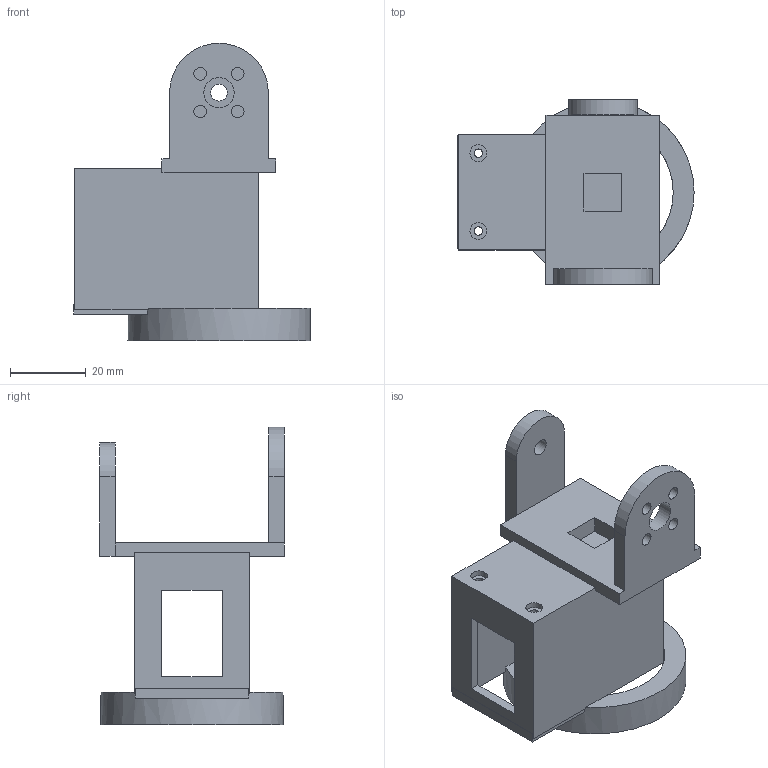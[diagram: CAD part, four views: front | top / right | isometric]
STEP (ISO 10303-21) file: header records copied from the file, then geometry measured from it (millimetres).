
FILE_DESCRIPTION(('Open CASCADE Model'),'2;1');
FILE_NAME('Open CASCADE Shape Model','2026-10-02T23:27:39',('Author'),( 'Open CASCADE'),'Open CASCADE STEP processor 7.9','Open CASCADE 7.9' ,'Unknown');
FILE_SCHEMA(('AUTOMOTIVE_DESIGN { 1 0 10303 214 1 1 1 1 }'));
Length unit declared in the file: millimetre
Products named in the file (1): Open CASCADE STEP translator 7.9 6
Bounding box: 62.2 x 48.5 x 78.3 mm (x, y, z)
Volume: 27060.8 mm3; surface area: 21061.4 mm2
Topology: 1 solids, 1 shells, 81 faces, 226 edges, 150 vertices
Faces by surface type: plane 60, cylinder 21
Full cylindrical faces by diameter (mm): 2.2 x4, 3.3 x4, 4.4 x5, 8 x1, 13.6 x1, 37 x1, 42.1 x1, 48 x1
Entity records: 5629 total; most frequent: CARTESIAN_POINT 1205, DIRECTION 783, LINE 487, VECTOR 487, ORIENTED_EDGE 452, PCURVE 452, DEFINITIONAL_REPRESENTATION 452, EDGE_CURVE 226
